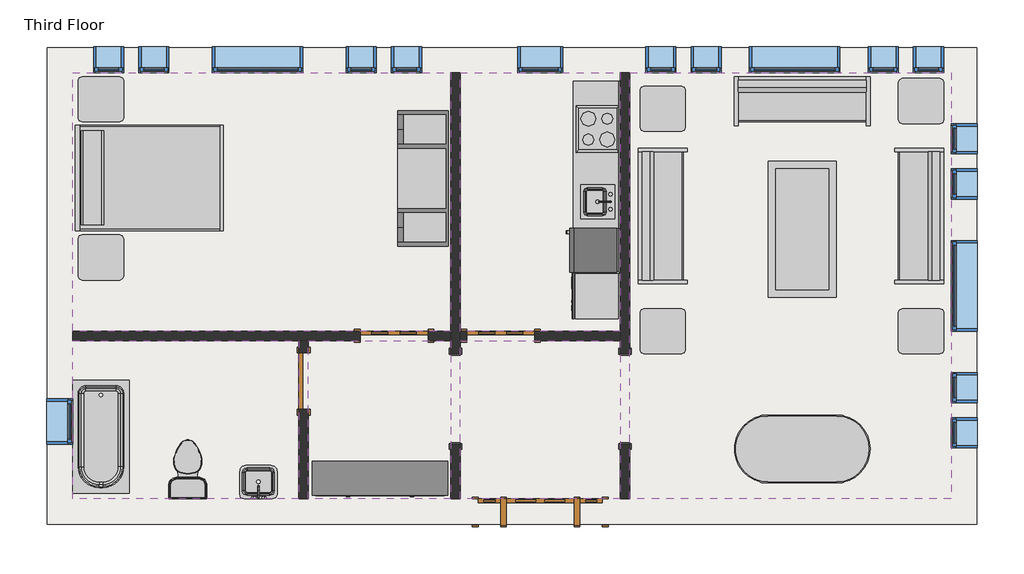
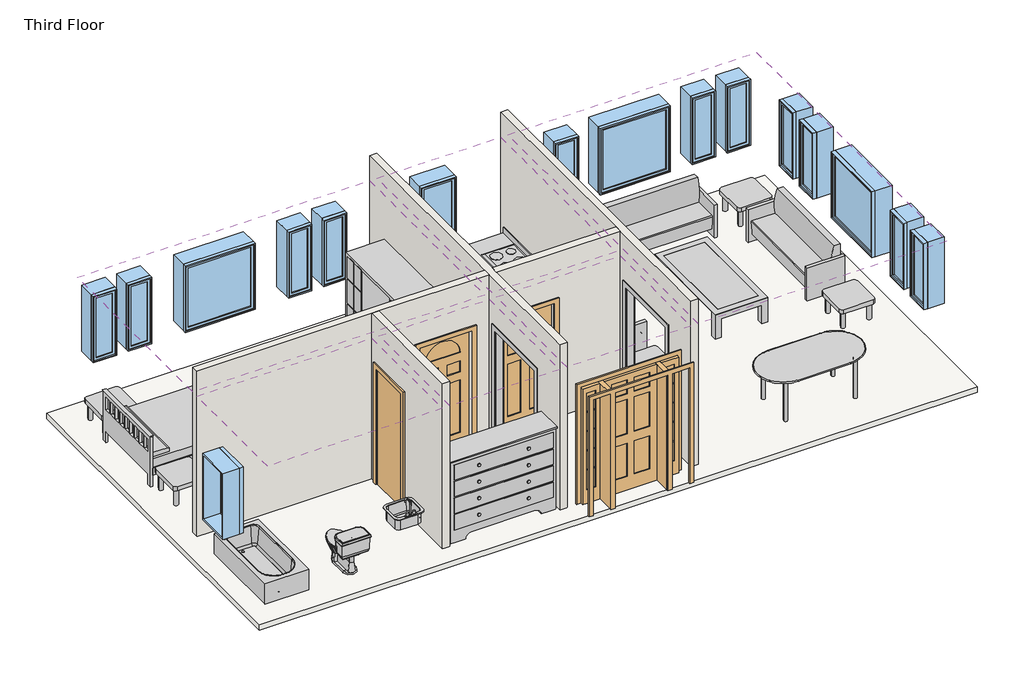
# One storey, incomplete: 17 windows, 15 furniture elements, 6 coverings, 6 proxies, 4 doors, 4 flow terminals, 4 walls, 1 slab.
"""IFC4 building model written with IfcOpenShell, lengths in millimetres."""

from ifc_helpers import new_model, si_unit, frame, origin, place, context, project, spatial, polyline, outline, extrude, faceted_brep, transform, mapped, element, save
from components import proxy_a6faaae8, proxy_45b28599, proxy_a6516e2b, proxy_f44482cc, proxy_c523a7b7, door_829da954, door_2e3b4da2, door_4d6c7550, door_ffdb1193, flow_terminal_871c2e40, flow_terminal_62a433f7, toilet_domestic_3d_toilet_domestic_3d_f7549cf7, toilet_domestic_3d_toilet_domestic_3d_183bbd19, tub_rectangular_3d_tub_rectangular_3d_c56944d8, furniture_096e7f55, furniture_dc2eca4b, furniture_7c473f12, furniture_cf0b6580, furniture_a4ffab56, furniture_cd93a443, furniture_2c34a4f9, furniture_3a588284, window_da97879f, window_d61ef850, window_60baf983, window_6eb97611

model = new_model("IFC4")

# Units and contexts
model_context = context("Model", 3, world=origin())
ifc_project = project(units=[si_unit("LENGTHUNIT", "METRE", prefix="MILLI")], contexts=[model_context])

# Site, building, storey
site = spatial("IfcSite", under=ifc_project)
building = spatial("IfcBuilding", under=site)
storey = spatial("IfcBuildingStorey", under=building, Name="Third Floor", Elevation=6096.0)

# Proxies
placement = place(None, origin())
proxy_shape = proxy_a6faaae8(model_context)
element("IfcBuildingElementProxy", 1, Name="Cook Top-4 Unit2 : 22\" x 20\"", ObjectType="Cook Top-4 Unit2 : 22\" x 20\"", at=placement, inside=storey, context=model_context, shape_type="MappedRepresentation", body=[
    mapped(proxy_shape, transform((2840.1428612, 5164.2241162, 6096.0), x_axis=(0.0, -1.0000000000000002, 0.0), y_axis=(1.0000000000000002, 0.0, 0.0), z_axis=(0.0, 0.0, 1.0))),
])
proxy_2_shape = proxy_45b28599(model_context)
element("IfcBuildingElementProxy", 2, Name="Dishwasher : 24\" x 24\" x 34\"", ObjectType="Dishwasher : 24\" x 24\" x 34\"", at=placement, inside=storey, context=model_context, shape_type="MappedRepresentation", body=[
    mapped(proxy_2_shape, transform((2548.2932964, 3298.6415847, 6096.0), x_axis=(0.0, -1.0000000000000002, 0.0), y_axis=(1.0000000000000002, 0.0, 0.0), z_axis=(0.0, 0.0, 1.0))),
])
proxy_3_shape = proxy_a6516e2b(model_context)
element("IfcBuildingElementProxy", 3, Name="Kitchenette - Medium : 8' 6\"", ObjectType="Kitchenette - Medium : 8' 6\"", at=placement, inside=storey, context=model_context, shape_type="MappedRepresentation", body=[
    mapped(proxy_3_shape, transform((3144.9428612, 4535.2618211, 6096.0), x_axis=(0.0, -1.0000000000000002, 0.0), y_axis=(1.0000000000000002, 0.0, 0.0), z_axis=(0.0, 0.0, 1.0))),
])
proxy_4_shape = proxy_f44482cc(model_context)
element("IfcBuildingElementProxy", 4, Name="Passage Opening-Cased : 48\" x 84\"", ObjectType="Passage Opening-Cased : 48\" x 84\"", at=placement, inside=storey, context=model_context, shape_type="MappedRepresentation", body=[
    mapped(proxy_4_shape, transform((3208.4428612, 1537.2944757, 6096.0), x_axis=(0.0, 1.0, 0.0), y_axis=(-1.0, 0.0, 0.0), z_axis=(0.0, 0.0, 1.0))),
])
element("IfcBuildingElementProxy", 5, Name="Passage Opening-Cased : 48\" x 84\"", ObjectType="Passage Opening-Cased : 48\" x 84\"", at=placement, inside=storey, context=model_context, shape_type="MappedRepresentation", body=[
    mapped(proxy_4_shape, transform((922.4428612, 1537.2944757, 6096.0), x_axis=(0.0, 1.0, 0.0), y_axis=(-1.0, 0.0, 0.0), z_axis=(0.0, 0.0, 1.0))),
])
proxy_5_shape = proxy_c523a7b7(model_context)
element("IfcBuildingElementProxy", 6, Name="Refrigerator : 24\" x 25\" LH", ObjectType="Refrigerator : 24\" x 25\" LH", at=placement, inside=storey, context=model_context, shape_type="MappedRepresentation", body=[
    mapped(proxy_5_shape, transform((2794.4938897, 3532.2741162, 6096.0), x_axis=(0.0, -1.0000000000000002, 0.0), y_axis=(1.0000000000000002, 0.0, 0.0), z_axis=(0.0, 0.0, 1.0))),
])

# Coverings
element("IfcCovering", 7, ObjectType="GWB on Mtl. Stud", at=placement, inside=storey, context=model_context, shape_type="SweptSolid", body=[
    extrude(outline(polyline([(-4235.3446388, 5924.893319), (858.9428612, 5924.893319), (858.9428612, 2441.918319), (-4235.3446388, 2441.918319), (-4235.3446388, 5924.893319)])), frame((0.0, 0.0, 8686.8), z_axis=(0.0, 0.0, 1.0), x_axis=(1.0, 0.0, 0.0)), (0.0, 0.0, 1.0), 107.95),
])
element("IfcCovering", 8, ObjectType="GWB on Mtl. Stud", at=placement, inside=storey, context=model_context, shape_type="SweptSolid", body=[
    extrude(outline(polyline([(-1187.3446388, 2314.918319), (-1187.3446388, 181.318319), (-4235.3446388, 181.318319), (-4235.3446388, 2314.918319), (-1187.3446388, 2314.918319)])), frame((0.0, 0.0, 8686.8), z_axis=(0.0, 0.0, 1.0), x_axis=(1.0, 0.0, 0.0)), (0.0, 0.0, 1.0), 107.95),
])
element("IfcCovering", 9, ObjectType="GWB on Mtl. Stud", at=placement, inside=storey, context=model_context, shape_type="SweptSolid", body=[
    extrude(outline(polyline([(858.9428612, 181.318319), (-1060.3446388, 181.318319), (-1060.3446388, 2314.918319), (858.9428612, 2314.918319), (858.9428612, 181.318319)])), frame((0.0, 0.0, 8686.8), z_axis=(0.0, 0.0, 1.0), x_axis=(1.0, 0.0, 0.0)), (0.0, 0.0, 1.0), 107.95),
])
element("IfcCovering", 10, ObjectType="GWB on Mtl. Stud", at=placement, inside=storey, context=model_context, shape_type="SweptSolid", body=[
    extrude(outline(polyline([(3144.9428612, 181.318319), (985.9428612, 181.318319), (985.9428612, 2314.918319), (3144.9428612, 2314.918319), (3144.9428612, 181.318319)])), frame((0.0, 0.0, 8686.8), z_axis=(0.0, 0.0, 1.0), x_axis=(1.0, 0.0, 0.0)), (0.0, 0.0, 1.0), 107.95),
])
element("IfcCovering", 11, ObjectType="GWB on Mtl. Stud", at=placement, inside=storey, context=model_context, shape_type="SweptSolid", body=[
    extrude(outline(polyline([(985.9428612, 2441.918319), (985.9428612, 5924.893319), (3144.9428612, 5924.893319), (3144.9428612, 2441.918319), (985.9428612, 2441.918319)])), frame((0.0, 0.0, 8686.8), z_axis=(0.0, 0.0, 1.0), x_axis=(1.0, 0.0, 0.0)), (0.0, 0.0, 1.0), 107.95),
])
element("IfcCovering", 12, ObjectType="GWB on Mtl. Stud", at=placement, inside=storey, context=model_context, shape_type="SweptSolid", body=[
    extrude(outline(polyline([(3271.9428612, 181.318319), (3271.9428612, 5924.893319), (7604.2303612, 5924.893319), (7604.2303612, 181.318319), (3271.9428612, 181.318319)])), frame((0.0, 0.0, 8686.8), z_axis=(0.0, 0.0, 1.0), x_axis=(1.0, 0.0, 0.0)), (0.0, 0.0, 1.0), 107.95),
])

# Doors
door_shape = door_829da954(model_context)
element("IfcDoor", 13, ObjectType="Single-Decorative 2 : 36\" x 84\"", at=placement, inside=storey, context=model_context, shape_type="MappedRepresentation", body=[
    mapped(door_shape, transform((1532.0428612, 2378.418319, 6096.0), x_axis=(-1.0, 0.0, 0.0), y_axis=(0.0, -1.0, 0.0), z_axis=(0.0, 0.0, 1.0))),
])
door_2_shape = door_2e3b4da2(model_context)
element("IfcDoor", 14, ObjectType="Single-Decorative 2 : 36\" x 84\"", at=placement, inside=storey, context=model_context, shape_type="MappedRepresentation", body=[
    mapped(door_2_shape, transform((95.3553612, 2378.418319, 6096.0), x_axis=(1.0, 0.0, 0.0), y_axis=(0.0, 1.0, 0.0), z_axis=(0.0, 0.0, 1.0))),
])
door_3_shape = door_4d6c7550(model_context)
element("IfcDoor", 15, ObjectType="Single-Flush : 30\" x 84\"", at=placement, inside=storey, context=model_context, shape_type="MappedRepresentation", body=[
    mapped(door_3_shape, transform((-1123.8446388, 1768.818319, 6096.0), x_axis=(0.0, 1.0, 0.0), y_axis=(-1.0, 0.0, 0.0), z_axis=(0.0, 0.0, 1.0))),
])
door_4_shape = door_ffdb1193(model_context)
element("IfcDoor", 16, ObjectType="Single-Raised Panel with Sidelights : 36\" x 84\"", at=placement, inside=storey, context=model_context, shape_type="MappedRepresentation", body=[
    mapped(door_4_shape, transform((2065.4428612, 5.105819, 6096.0), x_axis=(1.0, 0.0, 0.0), y_axis=(0.0, 1.0, 0.0), z_axis=(0.0, 0.0, 1.0))),
])

# Flow terminals
flow_terminal_shape = flow_terminal_871c2e40(model_context)
element("IfcFlowTerminal", 17, ObjectType="Sink Kitchen-Island : 18\" x 18\"", at=placement, inside=storey, context=model_context, shape_type="MappedRepresentation", body=[
    mapped(flow_terminal_shape, transform((2837.7974601, 4202.0133567, 6081.6), x_axis=(0.0, -1.0000000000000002, 0.0), y_axis=(1.0000000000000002, 0.0, 0.0), z_axis=(0.0, 0.0, 1.0))),
])
flow_terminal_2_shape = flow_terminal_62a433f7(model_context)
element("IfcFlowTerminal", 18, ObjectType="Sink Vanity-Square : 20\" x 18\"", at=placement, inside=storey, context=model_context, shape_type="MappedRepresentation", body=[
    mapped(flow_terminal_2_shape, transform((-1717.7553983, 361.4637201, 6096.0), x_axis=(-1.0, 0.0, 0.0), y_axis=(0.0, -1.0, 0.0), z_axis=(0.0, 0.0, 1.0))),
])
toilet_domestic_3d_toilet_domestic_3d_shape = toilet_domestic_3d_toilet_domestic_3d_f7549cf7(model_context)
toilet_domestic_3d_toilet_domestic_3d_2_shape = toilet_domestic_3d_toilet_domestic_3d_183bbd19(model_context)
element("IfcFlowTerminal", 19, ObjectType="Toilet-Domestic-3D : Toilet-Domestic-3D", at=placement, inside=storey, context=model_context, shape_type="MappedRepresentation", body=[
    mapped(toilet_domestic_3d_toilet_domestic_3d_shape, transform((-2684.3571388, 676.0143464, 6096.0), x_axis=(-1.0000000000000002, 0.0, 0.0), y_axis=(0.0, -1.0000000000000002, 0.0), z_axis=(0.0, 0.0, 1.0))),
    mapped(toilet_domestic_3d_toilet_domestic_3d_2_shape, transform((-2684.3571388, 676.0143464, 6096.0), x_axis=(-1.0000000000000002, 0.0, 0.0), y_axis=(0.0, -1.0000000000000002, 0.0), z_axis=(0.0, 0.0, 1.0))),
])
tub_rectangular_3d_tub_rectangular_3d_shape = tub_rectangular_3d_tub_rectangular_3d_c56944d8(model_context)
element("IfcFlowTerminal", 20, ObjectType="Tub-Rectangular-3D : Tub-Rectangular-3D", at=placement, inside=storey, context=model_context, shape_type="MappedRepresentation", body=[
    mapped(tub_rectangular_3d_tub_rectangular_3d_shape, transform((-4411.5571388, 672.5028503, 6096.0), x_axis=(0.0, -1.0, 0.0), y_axis=(1.0, 0.0, 0.0), z_axis=(0.0, 0.0, 1.0))),
])

# Furniture
furniture_shape = furniture_096e7f55(model_context)
element("IfcFurniture", 21, ObjectType="Bed-Shaker : Double 56\" x 78\"", at=placement, inside=storey, context=model_context, shape_type="MappedRepresentation", body=[
    mapped(furniture_shape, transform((-4190.1839627, 4526.7496884, 6096.0), x_axis=(0.0, 1.0000000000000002, 0.0), y_axis=(-1.0000000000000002, 0.0, 0.0), z_axis=(0.0, 0.0, 1.0))),
])
furniture_2_shape = furniture_dc2eca4b(model_context)
element("IfcFurniture", 22, ObjectType="Counter Top w Sink Hole : 24\" Depth", at=placement, inside=storey, context=model_context, shape_type="MappedRepresentation", body=[
    mapped(furniture_2_shape, transform((3144.9428612, 4611.4618211, 6081.6), x_axis=(0.0, -1.0000000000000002, 0.0), y_axis=(1.0000000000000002, 0.0, 0.0), z_axis=(0.0, 0.0, 1.0))),
])
furniture_3_shape = furniture_7c473f12(model_context)
element("IfcFurniture", 23, ObjectType="Dresser : 72\" x 60\" x 18\"", at=placement, inside=storey, context=model_context, shape_type="MappedRepresentation", body=[
    mapped(furniture_3_shape, transform((175.636121, 823.8812731, 6096.0), x_axis=(1.0, 0.0, 0.0), y_axis=(0.0, 1.0, 0.0), z_axis=(0.0, 0.0, 1.0))),
])
furniture_4_shape = furniture_cf0b6580(model_context)
element("IfcFurniture", 24, ObjectType="Entertainment Center : 72\" x 72\" x 24\"", at=placement, inside=storey, context=model_context, shape_type="MappedRepresentation", body=[
    mapped(furniture_4_shape, transform((927.2053612, 4500.905819, 6096.0), x_axis=(0.0, -1.0000000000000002, 0.0), y_axis=(1.0000000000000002, 0.0, 0.0), z_axis=(0.0, 0.0, 1.0))),
])
furniture_5_shape = furniture_a4ffab56(model_context)
element("IfcFurniture", 25, ObjectType="Sofa : 72\"", at=placement, inside=storey, context=model_context, shape_type="MappedRepresentation", body=[
    mapped(furniture_5_shape, transform((5525.6723694, 5396.1517206, 6096.0), x_axis=(1.0, 0.0, 0.0), y_axis=(0.0, 1.0, 0.0), z_axis=(0.0, 0.0, 1.0))),
])
element("IfcFurniture", 26, ObjectType="Sofa : 72\"", at=placement, inside=storey, context=model_context, shape_type="MappedRepresentation", body=[
    mapped(furniture_5_shape, transform((7024.6887628, 4063.2763108, 6096.0), x_axis=(0.0, -1.0, 0.0), y_axis=(1.0, 0.0, 0.0), z_axis=(0.0, 0.0, 1.0))),
])
element("IfcFurniture", 27, ObjectType="Sofa : 72\"", at=placement, inside=storey, context=model_context, shape_type="MappedRepresentation", body=[
    mapped(furniture_5_shape, transform((3862.5969596, 3922.5353272, 6096.0), x_axis=(0.0, 1.0000000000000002, 0.0), y_axis=(-1.0000000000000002, 0.0, 0.0), z_axis=(0.0, 0.0, 1.0))),
])
furniture_6_shape = furniture_cd93a443(model_context)
element("IfcFurniture", 28, ObjectType="Table-Coffee : 36\" x 72\" x 18\"", at=placement, inside=storey, context=model_context, shape_type="MappedRepresentation", body=[
    mapped(furniture_6_shape, transform((5500.8317834, 3833.3715857, 6096.0), x_axis=(0.0, -1.0, 0.0), y_axis=(1.0, 0.0, 0.0), z_axis=(0.0, 0.0, 1.0))),
])
furniture_7_shape = furniture_2c34a4f9(model_context)
element("IfcFurniture", 29, ObjectType="Table-Dining Oval : 36\" x 72\"", at=placement, inside=storey, context=model_context, shape_type="MappedRepresentation", body=[
    mapped(furniture_7_shape, transform((5997.8625333, 1212.5166797, 6096.0), x_axis=(1.0, 0.0, 0.0), y_axis=(0.0, 1.0, 0.0), z_axis=(0.0, 0.0, 1.0))),
])
furniture_8_shape = furniture_3a588284(model_context)
element("IfcFurniture", 30, ObjectType="Table-End : 24\" x 24\"", at=placement, inside=storey, context=model_context, shape_type="MappedRepresentation", body=[
    mapped(furniture_8_shape, transform((-4162.8782691, 5415.305819, 6096.0), x_axis=(1.0, 0.0, 0.0), y_axis=(0.0, 1.0, 0.0), z_axis=(0.0, 0.0, 1.0))),
])
element("IfcFurniture", 31, ObjectType="Table-End : 24\" x 24\"", at=placement, inside=storey, context=model_context, shape_type="MappedRepresentation", body=[
    mapped(furniture_8_shape, transform((-4162.8782691, 3283.293319, 6096.0), x_axis=(1.0, 0.0, 0.0), y_axis=(0.0, 1.0, 0.0), z_axis=(0.0, 0.0, 1.0))),
])
element("IfcFurniture", 32, ObjectType="Table-End : 24\" x 24\"", at=placement, inside=storey, context=model_context, shape_type="MappedRepresentation", body=[
    mapped(furniture_8_shape, transform((3407.9092309, 5288.305819, 6096.0), x_axis=(1.0, 0.0, 0.0), y_axis=(0.0, 1.0, 0.0), z_axis=(0.0, 0.0, 1.0))),
])
element("IfcFurniture", 33, ObjectType="Table-End : 24\" x 24\"", at=placement, inside=storey, context=model_context, shape_type="MappedRepresentation", body=[
    mapped(furniture_8_shape, transform((6887.7092309, 5389.905819, 6096.0), x_axis=(1.0, 0.0, 0.0), y_axis=(0.0, 1.0, 0.0), z_axis=(0.0, 0.0, 1.0))),
])
element("IfcFurniture", 34, ObjectType="Table-End : 24\" x 24\"", at=placement, inside=storey, context=model_context, shape_type="MappedRepresentation", body=[
    mapped(furniture_8_shape, transform((3407.9092309, 2289.518319, 6096.0), x_axis=(1.0, 0.0, 0.0), y_axis=(0.0, 1.0, 0.0), z_axis=(0.0, 0.0, 1.0))),
])
element("IfcFurniture", 35, ObjectType="Table-End : 24\" x 24\"", at=placement, inside=storey, context=model_context, shape_type="MappedRepresentation", body=[
    mapped(furniture_8_shape, transform((6887.7092309, 2289.518319, 6096.0), x_axis=(1.0, 0.0, 0.0), y_axis=(0.0, 1.0, 0.0), z_axis=(0.0, 0.0, 1.0))),
])

# Slab
element("IfcSlab", 36, ObjectType="LW Concrete on Metal Deck", at=placement, inside=storey, context=model_context, shape_type="SweptSolid", body=[
    extrude(outline(polyline([(7943.9553612, 6264.618319), (7943.9553612, -158.406681), (-4575.0696388, -158.406681), (-4575.0696388, 6264.618319), (7943.9553612, 6264.618319)])), frame((0.0, 0.0, 5991.225), z_axis=(0.0, 0.0, 1.0), x_axis=(1.0, 0.0, 0.0)), (0.0, 0.0, 1.0), 104.775),
])

# Walls
element("IfcWall", 37, ObjectType="Interior - 5\" Partition (2-hr)", at=placement, inside=storey, context=model_context, shape_type="Brep", body=[
    faceted_brep([(3144.9428612, 5924.893319, 6096.0), (3144.9428612, 2441.918319, 6096.0), (3144.9428612, 2314.918319, 6096.0), (3144.9428612, 2138.705819, 6096.0), (3144.9428612, 2138.705819, 8229.6), (3144.9428612, 919.505819, 8229.6), (3144.9428612, 919.505819, 6096.0), (3144.9428612, 181.318319, 6096.0), (3144.9428612, 181.318319, 9144.0), (3144.9428612, 2314.918319, 9144.0), (3144.9428612, 2441.918319, 9144.0), (3144.9428612, 5924.893319, 9144.0), (3271.9428612, 2138.705819, 8229.6), (3271.9428612, 2138.705819, 6096.0), (3271.9428612, 5924.893319, 6096.0), (3271.9428612, 5924.893319, 9144.0), (3271.9428612, 181.318319, 9144.0), (3271.9428612, 181.318319, 6096.0), (3271.9428612, 919.505819, 6096.0), (3271.9428612, 919.505819, 8229.6)], [[[0, 1, 2, 3, 4, 5, 6, 7, 8, 9, 10, 11]], [[12, 13, 14, 15, 16, 17, 18, 19]], [[18, 17, 7, 6]], [[14, 13, 3, 2, 1, 0]], [[11, 10, 9, 8, 16, 15]], [[6, 5, 19, 18]], [[4, 3, 13, 12]], [[5, 4, 12, 19]], [[0, 11, 15, 14]], [[8, 7, 17, 16]]]),
])
element("IfcWall", 38, ObjectType="Interior - 5\" Partition (2-hr)", at=placement, inside=storey, context=model_context, shape_type="Brep", body=[
    faceted_brep([(858.9428612, 5924.893319, 6096.0), (858.9428612, 2441.918319, 6096.0), (858.9428612, 2314.918319, 6096.0), (858.9428612, 2138.705819, 6096.0), (858.9428612, 2138.705819, 8229.6), (858.9428612, 919.505819, 8229.6), (858.9428612, 919.505819, 6096.0), (858.9428612, 181.318319, 6096.0), (858.9428612, 181.318319, 9144.0), (858.9428612, 2314.918319, 9144.0), (858.9428612, 2441.918319, 9144.0), (858.9428612, 5924.893319, 9144.0), (985.9428612, 2138.705819, 8229.6), (985.9428612, 2138.705819, 6096.0), (985.9428612, 2314.918319, 6096.0), (985.9428612, 2441.918319, 6096.0), (985.9428612, 5924.893319, 6096.0), (985.9428612, 5924.893319, 9144.0), (985.9428612, 2441.918319, 9144.0), (985.9428612, 2314.918319, 9144.0), (985.9428612, 181.318319, 9144.0), (985.9428612, 181.318319, 6096.0), (985.9428612, 919.505819, 6096.0), (985.9428612, 919.505819, 8229.6)], [[[0, 1, 2, 3, 4, 5, 6, 7, 8, 9, 10, 11]], [[12, 13, 14, 15, 16, 17, 18, 19, 20, 21, 22, 23]], [[22, 21, 7, 6]], [[16, 15, 14, 13, 3, 2, 1, 0]], [[11, 10, 9, 8, 20, 19, 18, 17]], [[6, 5, 23, 22]], [[4, 3, 13, 12]], [[5, 4, 12, 23]], [[0, 11, 17, 16]], [[8, 7, 21, 20]]]),
])
element("IfcWall", 39, ObjectType="Interior - 5\" Partition (2-hr)", at=placement, inside=storey, context=model_context, shape_type="Brep", body=[
    faceted_brep([(3144.9428612, 2314.918319, 6096.0), (3144.9428612, 2314.918319, 9144.0), (985.9428612, 2314.918319, 9144.0), (985.9428612, 2314.918319, 6096.0), (1074.8428612, 2314.918319, 6096.0), (1074.8428612, 2314.918319, 8229.6), (1989.2428612, 2314.918319, 8229.6), (1989.2428612, 2314.918319, 6096.0), (3144.9428612, 2441.918319, 9144.0), (3144.9428612, 2441.918319, 6096.0), (1989.2428612, 2441.918319, 6096.0), (1989.2428612, 2441.918319, 8229.6), (1074.8428612, 2441.918319, 8229.6), (1074.8428612, 2441.918319, 6096.0), (985.9428612, 2441.918319, 6096.0), (985.9428612, 2441.918319, 9144.0)], [[[0, 1, 2, 3, 4, 5, 6, 7]], [[8, 9, 10, 11, 12, 13, 14, 15]], [[9, 0, 7, 10]], [[13, 4, 3, 14]], [[1, 8, 15, 2]], [[1, 0, 9, 8]], [[3, 2, 15, 14]], [[5, 4, 13, 12]], [[6, 5, 12, 11]], [[7, 6, 11, 10]]]),
    faceted_brep([(552.5553612, 2314.918319, 8229.6), (552.5553612, 2314.918319, 6096.0), (858.9428612, 2314.918319, 6096.0), (858.9428612, 2314.918319, 9144.0), (-1060.3446388, 2314.918319, 9144.0), (-1187.3446388, 2314.918319, 9144.0), (-4235.3446388, 2314.918319, 9144.0), (-4235.3446388, 2314.918319, 6096.0), (-1187.3446388, 2314.918319, 6096.0), (-1060.3446388, 2314.918319, 6096.0), (-361.8446388, 2314.918319, 6096.0), (-361.8446388, 2314.918319, 8229.6), (552.5553612, 2441.918319, 6096.0), (552.5553612, 2441.918319, 8229.6), (-361.8446388, 2441.918319, 8229.6), (-361.8446388, 2441.918319, 6096.0), (-4235.3446388, 2441.918319, 6096.0), (-4235.3446388, 2441.918319, 9144.0), (858.9428612, 2441.918319, 9144.0), (858.9428612, 2441.918319, 6096.0)], [[[0, 1, 2, 3, 4, 5, 6, 7, 8, 9, 10, 11]], [[12, 13, 14, 15, 16, 17, 18, 19]], [[1, 12, 19, 2]], [[15, 10, 9, 8, 7, 16]], [[17, 6, 5, 4, 3, 18]], [[3, 2, 19, 18]], [[13, 12, 1, 0]], [[14, 13, 0, 11]], [[15, 14, 11, 10]], [[7, 6, 17, 16]]]),
])
element("IfcWall", 40, ObjectType="Interior - 5\" Partition (2-hr)", at=placement, inside=storey, context=model_context, shape_type="SweptSolid", body=[
    extrude(outline(polyline([(2314.918319, 6096.0), (2149.818319, 6096.0), (2149.818319, 8229.6), (1387.818319, 8229.6), (1387.818319, 6096.0), (181.318319, 6096.0), (181.318319, 9144.0), (2314.918319, 9144.0), (2314.918319, 6096.0)])), frame((-1187.3446388, 0.0, 0.0), z_axis=(1.0, 0.0, 0.0), x_axis=(0.0, 1.0, 0.0)), (0.0, 0.0, 1.0), 127.0),
])

# Windows
window_shape = window_da97879f(model_context)
element("IfcWindow", 41, ObjectType="Fixed : 16\" x 48\"", at=placement, inside=storey, context=model_context, shape_type="MappedRepresentation", body=[
    mapped(window_shape, transform((-3789.2571388, 6101.105819, 6096.0), x_axis=(-1.0, 0.0, 0.0), y_axis=(0.0, -1.0, 0.0), z_axis=(0.0, 0.0, 1.0))),
])
element("IfcWindow", 42, ObjectType="Fixed : 16\" x 48\"", at=placement, inside=storey, context=model_context, shape_type="MappedRepresentation", body=[
    mapped(window_shape, transform((-3179.6571388, 6101.105819, 6096.0), x_axis=(-1.0, 0.0, 0.0), y_axis=(0.0, -1.0, 0.0), z_axis=(0.0, 0.0, 1.0))),
])
element("IfcWindow", 43, ObjectType="Fixed : 16\" x 48\"", at=placement, inside=storey, context=model_context, shape_type="MappedRepresentation", body=[
    mapped(window_shape, transform((3652.9428612, 6101.105819, 6096.0), x_axis=(-1.0, 0.0, 0.0), y_axis=(0.0, -1.0, 0.0), z_axis=(0.0, 0.0, 1.0))),
])
element("IfcWindow", 44, ObjectType="Fixed : 16\" x 48\"", at=placement, inside=storey, context=model_context, shape_type="MappedRepresentation", body=[
    mapped(window_shape, transform((4262.5428612, 6101.105819, 6096.0), x_axis=(-1.0, 0.0, 0.0), y_axis=(0.0, -1.0, 0.0), z_axis=(0.0, 0.0, 1.0))),
])
element("IfcWindow", 45, ObjectType="Fixed : 16\" x 48\"", at=placement, inside=storey, context=model_context, shape_type="MappedRepresentation", body=[
    mapped(window_shape, transform((6650.1428612, 6101.105819, 6096.0), x_axis=(-1.0, 0.0, 0.0), y_axis=(0.0, -1.0, 0.0), z_axis=(0.0, 0.0, 1.0))),
])
element("IfcWindow", 46, ObjectType="Fixed : 16\" x 48\"", at=placement, inside=storey, context=model_context, shape_type="MappedRepresentation", body=[
    mapped(window_shape, transform((7259.7428612, 6101.105819, 6096.0), x_axis=(-1.0, 0.0, 0.0), y_axis=(0.0, -1.0, 0.0), z_axis=(0.0, 0.0, 1.0))),
])
element("IfcWindow", 47, ObjectType="Fixed : 16\" x 48\"", at=placement, inside=storey, context=model_context, shape_type="MappedRepresentation", body=[
    mapped(window_shape, transform((7780.4428612, 5072.405819, 6096.0), x_axis=(0.0, 1.0, 0.0), y_axis=(-1.0, 0.0, 0.0), z_axis=(0.0, 0.0, 1.0))),
])
element("IfcWindow", 48, ObjectType="Fixed : 16\" x 48\"", at=placement, inside=storey, context=model_context, shape_type="MappedRepresentation", body=[
    mapped(window_shape, transform((7780.4428612, 4462.805819, 6096.0), x_axis=(0.0, 1.0, 0.0), y_axis=(-1.0, 0.0, 0.0), z_axis=(0.0, 0.0, 1.0))),
])
element("IfcWindow", 49, ObjectType="Fixed : 16\" x 48\"", at=placement, inside=storey, context=model_context, shape_type="MappedRepresentation", body=[
    mapped(window_shape, transform((7780.4428612, 1719.605819, 6096.0), x_axis=(0.0, 1.0, 0.0), y_axis=(-1.0, 0.0, 0.0), z_axis=(0.0, 0.0, 1.0))),
])
element("IfcWindow", 50, ObjectType="Fixed : 16\" x 48\"", at=placement, inside=storey, context=model_context, shape_type="MappedRepresentation", body=[
    mapped(window_shape, transform((7780.4428612, 1110.005819, 6096.0), x_axis=(0.0, 1.0, 0.0), y_axis=(-1.0, 0.0, 0.0), z_axis=(0.0, 0.0, 1.0))),
])
window_2_shape = window_d61ef850(model_context)
element("IfcWindow", 51, ObjectType="Fixed : 16\" x 48\"", at=placement, inside=storey, context=model_context, shape_type="MappedRepresentation", body=[
    mapped(window_2_shape, transform((300.1428612, 6101.105819, 6096.0), x_axis=(1.0, 0.0, 0.0), y_axis=(0.0, 1.0, 0.0), z_axis=(0.0, 0.0, 1.0))),
])
element("IfcWindow", 52, ObjectType="Fixed : 16\" x 48\"", at=placement, inside=storey, context=model_context, shape_type="MappedRepresentation", body=[
    mapped(window_2_shape, transform((-309.4571388, 6101.105819, 6096.0), x_axis=(1.0, 0.0, 0.0), y_axis=(0.0, 1.0, 0.0), z_axis=(0.0, 0.0, 1.0))),
])
window_3_shape = window_60baf983(model_context)
element("IfcWindow", 53, ObjectType="Fixed : 24\" x 48\"", at=placement, inside=storey, context=model_context, shape_type="MappedRepresentation", body=[
    mapped(window_3_shape, transform((2027.3428612, 6101.105819, 6096.0), x_axis=(-1.0, 0.0, 0.0), y_axis=(0.0, -1.0, 0.0), z_axis=(0.0, 0.0, 1.0))),
])
element("IfcWindow", 54, ObjectType="Fixed : 24\" x 48\"", at=placement, inside=storey, context=model_context, shape_type="MappedRepresentation", body=[
    mapped(window_3_shape, transform((-4411.5571388, 1186.205819, 6096.0), x_axis=(0.0, -1.0, 0.0), y_axis=(1.0, 0.0, 0.0), z_axis=(0.0, 0.0, 1.0))),
])
window_4_shape = window_6eb97611(model_context)
element("IfcWindow", 55, ObjectType="Fixed : 48\" x 48\"", at=placement, inside=storey, context=model_context, shape_type="MappedRepresentation", body=[
    mapped(window_4_shape, transform((-1782.6571388, 6101.105819, 6096.0), x_axis=(-1.0, 0.0, 0.0), y_axis=(0.0, -1.0, 0.0), z_axis=(0.0, 0.0, 1.0))),
])
element("IfcWindow", 56, ObjectType="Fixed : 48\" x 48\"", at=placement, inside=storey, context=model_context, shape_type="MappedRepresentation", body=[
    mapped(window_4_shape, transform((5456.3428612, 6101.105819, 6096.0), x_axis=(-1.0, 0.0, 0.0), y_axis=(0.0, -1.0, 0.0), z_axis=(0.0, 0.0, 1.0))),
])
element("IfcWindow", 57, ObjectType="Fixed : 48\" x 48\"", at=placement, inside=storey, context=model_context, shape_type="MappedRepresentation", body=[
    mapped(window_4_shape, transform((7780.4428612, 3091.205819, 6096.0), x_axis=(0.0, 1.0, 0.0), y_axis=(-1.0, 0.0, 0.0), z_axis=(0.0, 0.0, 1.0))),
])

save(model, "model.ifc")
